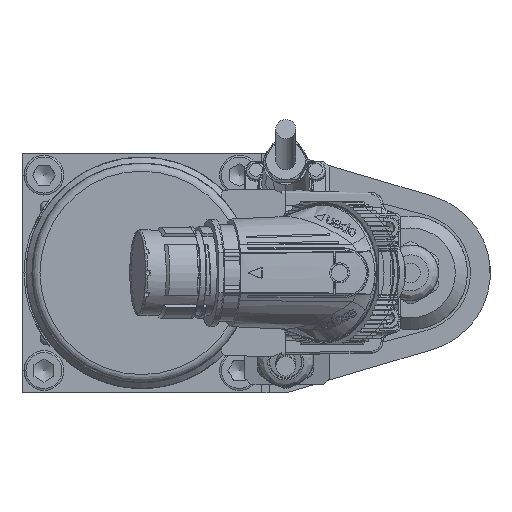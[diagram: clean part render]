
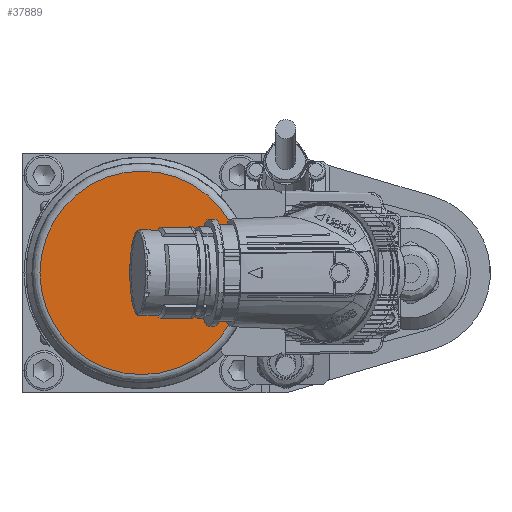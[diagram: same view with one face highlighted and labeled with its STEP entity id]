
A CAD part, left-side view. The second image highlights one B-rep face of the part: STEP entity #37889.
In plain terms, the highlighted planar face has unit normal (-1, 0, 0).
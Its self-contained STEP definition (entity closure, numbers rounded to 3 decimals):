
#6523 = CARTESIAN_POINT ( 'NONE',  ( -348.4, 0., 0. ) ) ;
#7606 = CARTESIAN_POINT ( 'NONE',  ( -348.4, 0., 25.5 ) ) ;
#15383 = DIRECTION ( 'NONE',  ( 0., 0., 1. ) ) ;
#15655 = ORIENTED_EDGE ( 'NONE', *, *, #82804, .T. ) ;
#19476 = AXIS2_PLACEMENT_3D ( 'NONE', #93832, #42477, #102433 ) ;
#37889 = ADVANCED_FACE ( 'NONE', ( #39705 ), #109198, .T. ) ;
#39705 = FACE_OUTER_BOUND ( 'NONE', #100878, .T. ) ;
#42477 = DIRECTION ( 'NONE',  ( -1., 0., 0. ) ) ;
#53797 = CIRCLE ( 'NONE', #19476, 25.5 ) ;
#82804 = EDGE_CURVE ( 'NONE', #89810, #89810, #53797, .T. ) ;
#83345 = DIRECTION ( 'NONE',  ( -1., 0., 0. ) ) ;
#89810 = VERTEX_POINT ( 'NONE', #7606 ) ;
#93832 = CARTESIAN_POINT ( 'NONE',  ( -348.4, 0., 0. ) ) ;
#97744 = AXIS2_PLACEMENT_3D ( 'NONE', #6523, #83345, #15383 ) ;
#100878 = EDGE_LOOP ( 'NONE', ( #15655 ) ) ;
#102433 = DIRECTION ( 'NONE',  ( 0., 0., 1. ) ) ;
#109198 = PLANE ( 'NONE',  #97744 ) ;
